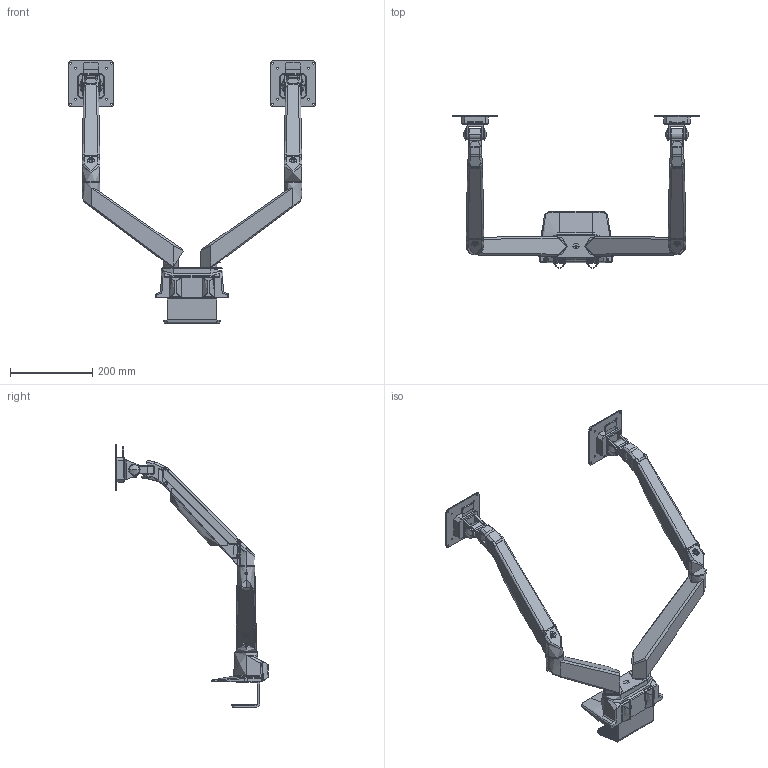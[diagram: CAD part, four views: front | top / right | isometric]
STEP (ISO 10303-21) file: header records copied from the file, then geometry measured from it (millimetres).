
FILE_DESCRIPTION (( 'STEP AP203' ), '1' );
FILE_NAME ('S203.STEP', '2018-05-07T03:22:17', ( '' ), ( '' ), 'SwSTEP 2.0', 'SolidWorks 2014', '' );
FILE_SCHEMA (( 'CONFIG_CONTROL_DESIGN' ));
Products named in the file (1): S203
Bounding box: 604.4 x 373.87 x 639.57 mm (x, y, z)
Topology: 0 solids, 82 shells, 2856 faces, 7412 edges, 4737 vertices
Faces by surface type: cylinder 1092, plane 857, bspline 557, torus 221, cone 95, sphere 34
Full cylindrical faces by diameter (mm): 8 x2
Entity records: 176409 total; most frequent: CARTESIAN_POINT 115808, ORIENTED_EDGE 14646, DIRECTION 9403, EDGE_CURVE 7364, VERTEX_POINT 4732, AXIS2_PLACEMENT_3D 3538, B_SPLINE_CURVE_WITH_KNOTS 3463, EDGE_LOOP 3047
